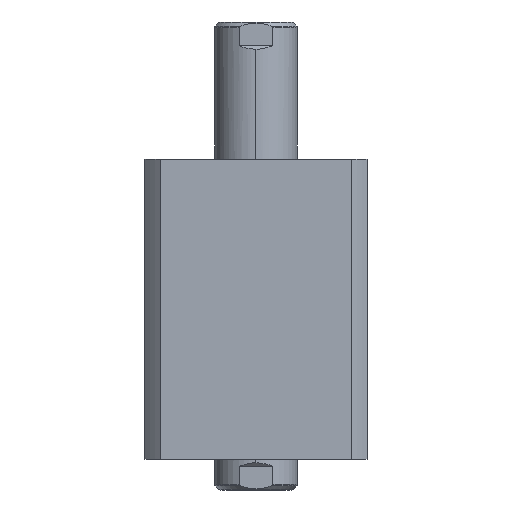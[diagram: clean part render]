
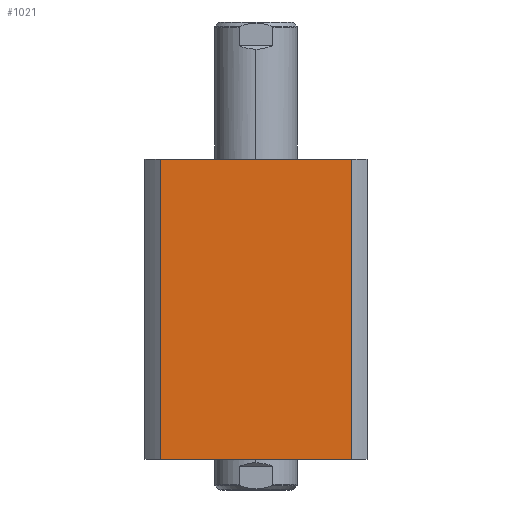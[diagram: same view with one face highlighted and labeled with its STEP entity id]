
A CAD part, left-side view. The second image highlights one B-rep face of the part: STEP entity #1021.
In plain terms, the highlighted planar face has unit normal (-1, 0, 0).
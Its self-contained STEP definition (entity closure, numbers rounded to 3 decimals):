
#222 = DIRECTION ( 'NONE',  ( 0., -1., 0. ) ) ;
#341 = DIRECTION ( 'NONE',  ( 0., -1., 0. ) ) ;
#1021 = ADVANCED_FACE ( 'NONE', ( #5992 ), #7276, .F. ) ;
#1147 = EDGE_CURVE ( 'NONE', #10874, #3613, #13587, .T. ) ;
#2942 = VECTOR ( 'NONE', #222, 1000. ) ;
#3303 = VECTOR ( 'NONE', #16283, 1000. ) ;
#3535 = VERTEX_POINT ( 'NONE', #8890 ) ;
#3613 = VERTEX_POINT ( 'NONE', #10710 ) ;
#5589 = EDGE_CURVE ( 'NONE', #3535, #10874, #16235, .T. ) ;
#5992 = FACE_OUTER_BOUND ( 'NONE', #13576, .T. ) ;
#6327 = CARTESIAN_POINT ( 'NONE',  ( -47., -40.435, 800. ) ) ;
#6434 = ORIENTED_EDGE ( 'NONE', *, *, #1147, .F. ) ;
#6704 = EDGE_CURVE ( 'NONE', #3535, #11857, #10081, .T. ) ;
#6830 = ORIENTED_EDGE ( 'NONE', *, *, #5589, .F. ) ;
#7088 = LINE ( 'NONE', #6327, #3303 ) ;
#7249 = ORIENTED_EDGE ( 'NONE', *, *, #12375, .F. ) ;
#7276 = PLANE ( 'NONE',  #12804 ) ;
#7344 = DIRECTION ( 'NONE',  ( 1., 0., 0. ) ) ;
#8436 = VECTOR ( 'NONE', #341, 1000. ) ;
#8545 = CARTESIAN_POINT ( 'NONE',  ( -47., -40.435, 0. ) ) ;
#8673 = CARTESIAN_POINT ( 'NONE',  ( -47., 40.435, 800. ) ) ;
#8846 = VECTOR ( 'NONE', #12917, 1000. ) ;
#8890 = CARTESIAN_POINT ( 'NONE',  ( -47., 40.435, 0. ) ) ;
#10081 = LINE ( 'NONE', #10226, #2942 ) ;
#10226 = CARTESIAN_POINT ( 'NONE',  ( -47., 47., 0. ) ) ;
#10710 = CARTESIAN_POINT ( 'NONE',  ( -47., -40.435, 127. ) ) ;
#10874 = VERTEX_POINT ( 'NONE', #11182 ) ;
#11182 = CARTESIAN_POINT ( 'NONE',  ( -47., 40.435, 127. ) ) ;
#11857 = VERTEX_POINT ( 'NONE', #8545 ) ;
#12375 = EDGE_CURVE ( 'NONE', #3613, #11857, #7088, .T. ) ;
#12804 = AXIS2_PLACEMENT_3D ( 'NONE', #12949, #7344, #17303 ) ;
#12917 = DIRECTION ( 'NONE',  ( 0., 0., 1. ) ) ;
#12949 = CARTESIAN_POINT ( 'NONE',  ( -47., 47., 127. ) ) ;
#13576 = EDGE_LOOP ( 'NONE', ( #7249, #6434, #6830, #13703 ) ) ;
#13587 = LINE ( 'NONE', #14573, #8436 ) ;
#13703 = ORIENTED_EDGE ( 'NONE', *, *, #6704, .T. ) ;
#14573 = CARTESIAN_POINT ( 'NONE',  ( -47., 47., 127. ) ) ;
#16235 = LINE ( 'NONE', #8673, #8846 ) ;
#16283 = DIRECTION ( 'NONE',  ( 0., 0., -1. ) ) ;
#17303 = DIRECTION ( 'NONE',  ( 0., 1., 0. ) ) ;
